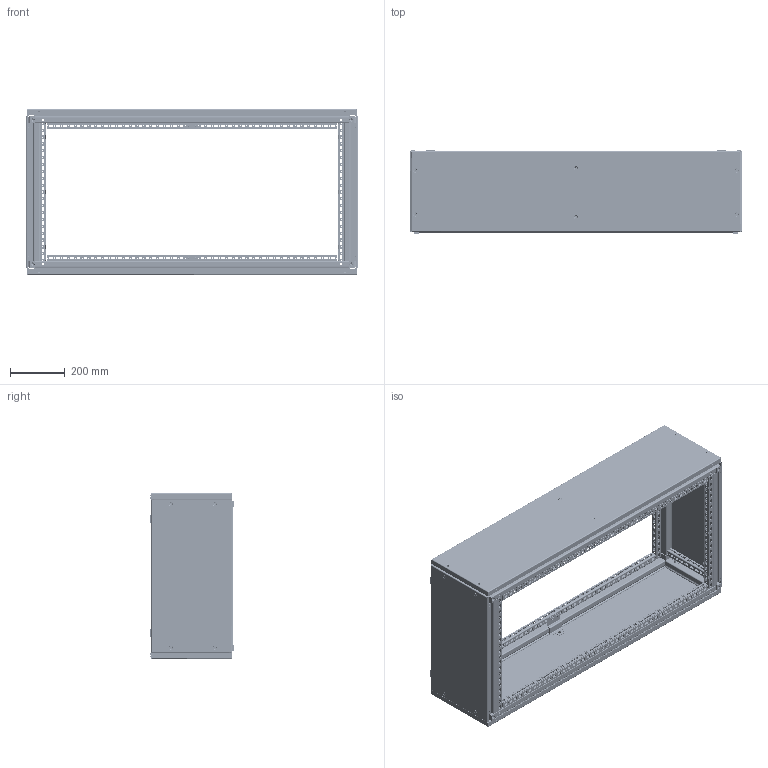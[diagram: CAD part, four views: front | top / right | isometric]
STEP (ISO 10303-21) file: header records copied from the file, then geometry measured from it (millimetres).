
FILE_DESCRIPTION (( 'STEP AP203' ), '1' );
FILE_NAME ('36404.STEP', '2019-04-10T20:08:41', ( '' ), ( '' ), 'SwSTEP 2.0', 'SolidWorks 2016', '' );
FILE_SCHEMA (( 'CONFIG_CONTROL_DESIGN' ));
Length unit declared in the file: inch
Products named in the file (33): 89124408_89124408; 89127966; 89143486; 89168437_87934847; 89133232_Cometic Threads; 89126501; 89122253; 89123011; 89124255_89124255; 89127992; 89122255_LMC Tapped; 89168446; 89124214; 89126502; 89136106_Peened End; 89141342_26132002; 89168440_600x600; 89163238; 89122254_Installed; 89163259_600x600; 87931527_87931527; 89168374; 60127013; 36404; 89163255; 87931368_SLEEVE; 60127024_As installed; 89163236; 89163281_87934847; 60100041_60100041; 89124256_89124256; 89163251; 89168443
Assembly tree (137 placements, depth 5):
  36404
    89168374
      60127013  x8
      89163236  x4
      89127966  x4
      89126501  x4
      89127992  x4
      89126502  x4
      89163238  x4
    60127024_As installed  x8
    89124255_89124255  x8
      89124256_89124256
      89124408_89124408
      89133232_Cometic Threads
    89124214  x12
    89168446  x2
      89168443
        89168440_600x600
        60100041_60100041
          87931527_87931527
          87931368_SLEEVE
      89168437_87934847
      89123011
    89133232_Cometic Threads  x20
    89141342_26132002  x20
    89163251  x2
      89163255
        89163259_600x600
        60100041_60100041
          87931527_87931527
          87931368_SLEEVE
      89123011
      89163281_87934847
    89143486  x4
    89122254_Installed  x8
      89122253
      89122255_LMC Tapped
      89136106_Peened End
Bounding box: 1208.4 x 304.35 x 603 mm (x, y, z)
Volume: 4882127.5 mm3; surface area: 5107354.9 mm2
Topology: 168 solids, 168 shells, 15524 faces, 42216 edges, 26732 vertices
Faces by surface type: plane 7068, cylinder 5896, bspline 1392, cone 592, torus 392, sphere 184
Entity records: 132314 total; most frequent: CARTESIAN_POINT 52068, ORIENTED_EDGE 15518, DIRECTION 14724, EDGE_CURVE 7759, LINE 5246, VECTOR 5246, VERTEX_POINT 4980, AXIS2_PLACEMENT_3D 4739
